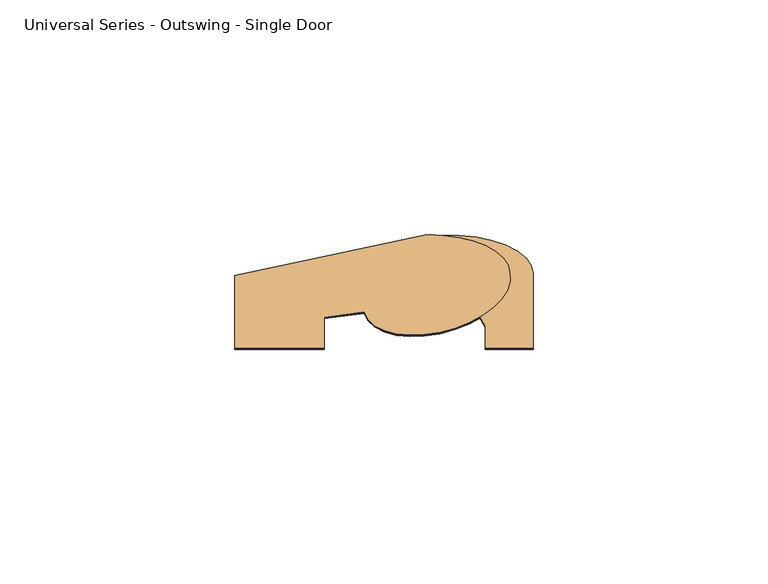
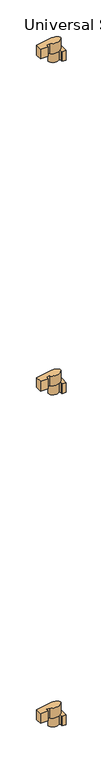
"""IFC4 building model written with IfcOpenShell, lengths in millimetres: door geometry, Universal Series - Outswing - Single Door : Universal Single Door - Rainware White."""

from ifc_helpers import new_model, si_unit, point, frame, origin, place, context, project, spatial, ellipse_curve, trimmed, source, transform, mapped, element, save
from ifc_brep_helpers import plane_surface, extruded_surface, advanced_brep


def universal_series_outswing_single_door_a2d1e6a4(model_context):
    return source(origin(), model_context, "Body", "AdvancedBrep", [
        advanced_brep(
        [(406.4, 73.81875, 1854.2), (406.4, 57.94375, 1854.2), (396.2410269, 57.94375, 1854.2), (396.2410269, 62.5751014, 1854.2), (393.9021491, 66.7596681, 1854.2), (371.3277787, 73.81875, 1854.2), (406.4, 73.81875, 1879.6), (371.3277787, 73.81875, 1879.6), (393.9021491, 66.7596681, 1879.6), (396.2410269, 62.5751014, 1879.6), (396.2410269, 57.94375, 1879.6), (406.4, 57.94375, 1879.6)],
        [
            (0, 1),
            (1, 2),
            (2, 3),
            (3, 4),
            (4, 5, ellipse_curve(frame((384.0277787, 73.81875, 1854.2), z_axis=(0.0, 0.0, -1.0), x_axis=(-1.0, 0.0, 0.0)), 12.7, 11.2250039)),
            (5, 0, ellipse_curve(frame((388.8638894, 73.81875, 1854.2), z_axis=(0.0, 0.0, -1.0), x_axis=(1.0, 0.0, 0.0)), 17.5361106, 8.0833806)),
            (6, 7, ellipse_curve(frame((388.8638894, 73.81875, 1879.6), z_axis=(0.0, 0.0, 1.0), x_axis=(1.0, 0.0, 0.0)), 17.5361106, 8.0833806)),
            (7, 8, ellipse_curve(frame((384.0277787, 73.81875, 1879.6), z_axis=(0.0, 0.0, 1.0), x_axis=(-1.0, 0.0, 0.0)), 12.7, 11.2250039)),
            (8, 9),
            (9, 10),
            (10, 11),
            (11, 6),
            (6, 0),
            (5, 7),
            (4, 8),
            (3, 9),
            (2, 10),
            (1, 11),
        ],
        [
            plane_surface(frame((406.4, 73.81875, 1854.2), z_axis=(0.0, 0.0, -1.0), x_axis=(0.0, -1.0, 0.0))),
            plane_surface(frame((406.4, 73.81875, 1879.6), z_axis=(0.0, 0.0, 1.0), x_axis=(0.0, 1.0, 0.0))),
            extruded_surface(trimmed(ellipse_curve(frame((388.8638894, 73.81875, 1828.8), z_axis=(0.0, 0.0, 1.0), x_axis=(1.0, 0.0, 0.0)), 17.5361106, 8.0833806), [point((406.4, 73.81875, 1828.8))], [point((371.3277787, 73.81875, 1828.8))], True, "CARTESIAN"), (0.0, 0.0, 25.40000000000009), 25.40000000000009),
            extruded_surface(trimmed(ellipse_curve(frame((384.0277787, 73.81875, 1828.8), z_axis=(0.0, 0.0, 1.0), x_axis=(-1.0, 0.0, 0.0)), 12.7, 11.2250039), [point((371.3277787, 73.81875, 1828.8))], [point((393.9021491, 66.7596681, 1828.8))], True, "CARTESIAN"), (0.0, 0.0, 25.40000000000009), 25.40000000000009),
            plane_surface(frame((393.9021491, 66.7596681, 1879.6), z_axis=(-0.8729040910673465, -0.48789184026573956, 0.0), x_axis=(0.0, 0.0, -1.0))),
            plane_surface(frame((396.2410269, 62.5751014, 1879.6), z_axis=(-1.0, 0.0, 0.0), x_axis=(0.0, 0.0, -1.0))),
            plane_surface(frame((396.2410269, 57.94375, 1879.6), z_axis=(0.0, -1.0, 0.0), x_axis=(0.0, 0.0, -1.0))),
            plane_surface(frame((406.4, 57.94375, 1879.6), z_axis=(1.0, 0.0, 0.0), x_axis=(0.0, 0.0, -1.0))),
        ],
        [
            (0, [[1, 2, 3, 4, 5, 6]]),
            (1, [[7, 8, 9, 10, 11, 12]]),
            (2, [[-7, 13, -6, 14]]),
            (3, [[-8, -14, -5, 15]]),
            (4, [[-9, -15, -4, 16]]),
            (5, [[-10, -16, -3, 17]]),
            (6, [[-11, -17, -2, 18]]),
            (7, [[-12, -18, -1, -13]]),
        ],
    ),
        advanced_brep(
        [(406.4, 73.81875, 990.6), (406.4, 57.94375, 990.6), (396.2410269, 57.94375, 990.6), (396.2410269, 62.5751014, 990.6), (393.9021491, 66.7596681, 990.6), (371.3277787, 73.81875, 990.6), (406.4, 73.81875, 1016.0), (371.3277787, 73.81875, 1016.0), (393.9021491, 66.7596681, 1016.0), (396.2410269, 62.5751014, 1016.0), (396.2410269, 57.94375, 1016.0), (406.4, 57.94375, 1016.0)],
        [
            (0, 1),
            (1, 2),
            (2, 3),
            (3, 4),
            (4, 5, ellipse_curve(frame((384.0277787, 73.81875, 990.6), z_axis=(0.0, 0.0, -1.0), x_axis=(-1.0, 0.0, 0.0)), 12.7, 11.2250039)),
            (5, 0, ellipse_curve(frame((388.8638894, 73.81875, 990.6), z_axis=(0.0, 0.0, -1.0), x_axis=(1.0, 0.0, 0.0)), 17.5361106, 8.0833806)),
            (6, 7, ellipse_curve(frame((388.8638894, 73.81875, 1016.0), z_axis=(0.0, 0.0, 1.0), x_axis=(1.0, 0.0, 0.0)), 17.5361106, 8.0833806)),
            (7, 8, ellipse_curve(frame((384.0277787, 73.81875, 1016.0), z_axis=(0.0, 0.0, 1.0), x_axis=(-1.0, 0.0, 0.0)), 12.7, 11.2250039)),
            (8, 9),
            (9, 10),
            (10, 11),
            (11, 6),
            (6, 0),
            (5, 7),
            (4, 8),
            (3, 9),
            (2, 10),
            (1, 11),
        ],
        [
            plane_surface(frame((406.4, 73.81875, 990.6), z_axis=(0.0, 0.0, -1.0), x_axis=(0.0, -1.0, 0.0))),
            plane_surface(frame((406.4, 73.81875, 1016.0), z_axis=(0.0, 0.0, 1.0), x_axis=(0.0, 1.0, 0.0))),
            extruded_surface(trimmed(ellipse_curve(frame((388.8638894, 73.81875, 965.2), z_axis=(0.0, 0.0, 1.0), x_axis=(1.0, 0.0, 0.0)), 17.5361106, 8.0833806), [point((406.4, 73.81875, 965.2))], [point((371.3277787, 73.81875, 965.2))], True, "CARTESIAN"), (0.0, 0.0, 25.399999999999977), 25.399999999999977),
            extruded_surface(trimmed(ellipse_curve(frame((384.0277787, 73.81875, 965.2), z_axis=(0.0, 0.0, 1.0), x_axis=(-1.0, 0.0, 0.0)), 12.7, 11.2250039), [point((371.3277787, 73.81875, 965.2))], [point((393.9021491, 66.7596681, 965.2))], True, "CARTESIAN"), (0.0, 0.0, 25.399999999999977), 25.399999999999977),
            plane_surface(frame((393.9021491, 66.7596681, 1016.0), z_axis=(-0.8729040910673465, -0.48789184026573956, 0.0), x_axis=(0.0, 0.0, -1.0))),
            plane_surface(frame((396.2410269, 62.5751014, 1016.0), z_axis=(-1.0, 0.0, 0.0), x_axis=(0.0, 0.0, -1.0))),
            plane_surface(frame((396.2410269, 57.94375, 1016.0), z_axis=(0.0, -1.0, 0.0), x_axis=(0.0, 0.0, -1.0))),
            plane_surface(frame((406.4, 57.94375, 1016.0), z_axis=(1.0, 0.0, 0.0), x_axis=(0.0, 0.0, -1.0))),
        ],
        [
            (0, [[1, 2, 3, 4, 5, 6]]),
            (1, [[7, 8, 9, 10, 11, 12]]),
            (2, [[-7, 13, -6, 14]]),
            (3, [[-8, -14, -5, 15]]),
            (4, [[-9, -15, -4, 16]]),
            (5, [[-10, -16, -3, 17]]),
            (6, [[-11, -17, -2, 18]]),
            (7, [[-12, -18, -1, -13]]),
        ],
    ),
        advanced_brep(
        [(401.4080824, 73.9727208, 1041.4), (383.8719717, 82.0561014, 1041.4), (342.9, 73.4034338, 1041.4), (342.9, 57.94375, 1041.4), (361.95, 57.94375, 1041.4), (361.95, 64.4477208, 1041.4), (370.4715318, 65.5953469, 1041.4), (401.4080824, 73.9727208, 1016.0), (370.4715318, 65.5953469, 1016.0), (361.95, 64.4477208, 1016.0), (361.95, 57.94375, 1016.0), (342.9, 57.94375, 1016.0), (342.9, 73.4034338, 1016.0), (383.8719717, 82.0561014, 1016.0)],
        [
            (0, 1, ellipse_curve(frame((383.8719717, 73.9727208, 1041.4), z_axis=(0.0, 0.0, 1.0), x_axis=(-1.0, 0.0, 0.0)), 17.5361106, 8.0833806)),
            (1, 2),
            (2, 3),
            (3, 4),
            (4, 5),
            (5, 6),
            (6, 0, ellipse_curve(frame((385.9398071, 69.7840339, 1041.4), z_axis=(0.0, 0.0, 1.0000000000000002), x_axis=(0.9652364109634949, 0.261378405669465, 0.0)), 16.0253748, 8.4436972)),
            (7, 8, ellipse_curve(frame((385.9398071, 69.7840339, 1016.0), z_axis=(0.0, 0.0, -1.0000000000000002), x_axis=(0.9652364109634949, 0.261378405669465, 0.0)), 16.0253748, 8.4436972)),
            (8, 9),
            (9, 10),
            (10, 11),
            (11, 12),
            (12, 13),
            (13, 7, ellipse_curve(frame((383.8719717, 73.9727208, 1016.0), z_axis=(0.0, 0.0, -1.0), x_axis=(-1.0, 0.0, 0.0)), 17.5361106, 8.0833806)),
            (0, 7),
            (13, 1),
            (12, 2),
            (11, 3),
            (10, 4),
            (9, 5),
            (8, 6),
        ],
        [
            plane_surface(frame((366.3358611, 73.9727208, 1041.4), z_axis=(0.0, 0.0, 1.0), x_axis=(0.0, -1.0, 0.0))),
            plane_surface(frame((366.3358611, 73.9727208, 1016.0), z_axis=(0.0, 0.0, -1.0), x_axis=(0.0, 1.0, 0.0))),
            extruded_surface(trimmed(ellipse_curve(frame((383.8719717, 73.9727208, 990.6), z_axis=(0.0, 0.0, 1.0), x_axis=(-1.0, 0.0, 0.0)), 17.5361106, 8.0833806), [point((401.4080824, 73.9727208, 990.6))], [point((383.8719717, 82.0561014, 990.6))], True, "CARTESIAN"), (0.0, 0.0, 25.399999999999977), 25.399999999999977),
            plane_surface(frame((383.8719717, 82.0561014, 1041.4), z_axis=(-0.20662759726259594, 0.9784196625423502, 0.0), x_axis=(0.0, 0.0, -1.0))),
            plane_surface(frame((342.9, 73.4034338, 1041.4), z_axis=(-1.0, 0.0, 0.0), x_axis=(0.0, 0.0, -1.0))),
            plane_surface(frame((342.9, 57.94375, 1041.4), z_axis=(0.0, -1.0, 0.0), x_axis=(0.0, 0.0, -1.0))),
            plane_surface(frame((361.95, 57.94375, 1041.4), z_axis=(1.0, 0.0, 0.0), x_axis=(0.0, 0.0, -1.0))),
            plane_surface(frame((361.95, 64.4477208, 1041.4), z_axis=(0.1334687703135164, -0.9910530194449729, 0.0), x_axis=(0.0, 0.0, -1.0))),
            extruded_surface(trimmed(ellipse_curve(frame((385.9398071, 69.7840339, 990.6), z_axis=(0.0, 0.0, 1.0000000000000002), x_axis=(0.9652364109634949, 0.261378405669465, 0.0)), 16.0253748, 8.4436972), [point((370.4715318, 65.5953469, 990.6))], [point((401.4080824, 73.9727208, 990.6))], True, "CARTESIAN"), (0.0, 0.0, 25.399999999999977), 25.399999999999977),
        ],
        [
            (0, [[1, 2, 3, 4, 5, 6, 7]]),
            (1, [[8, 9, 10, 11, 12, 13, 14]]),
            (2, [[-1, 15, -14, 16]]),
            (3, [[-2, -16, -13, 17]]),
            (4, [[-3, -17, -12, 18]]),
            (5, [[-4, -18, -11, 19]]),
            (6, [[-5, -19, -10, 20]]),
            (7, [[-6, -20, -9, 21]]),
            (8, [[-7, -21, -8, -15]]),
        ],
    ),
        advanced_brep(
        [(401.4080824, 73.9727208, 152.4), (370.4715318, 65.5953469, 152.4), (361.95, 64.4477208, 152.4), (361.95, 57.94375, 152.4), (342.9, 57.94375, 152.4), (342.9, 73.4034338, 152.4), (383.8719717, 82.0561014, 152.4), (401.4080824, 73.9727208, 177.8), (383.8719717, 82.0561014, 177.8), (342.9, 73.4034338, 177.8), (342.9, 57.94375, 177.8), (361.95, 57.94375, 177.8), (361.95, 64.4477208, 177.8), (370.4715318, 65.5953469, 177.8)],
        [
            (0, 1, ellipse_curve(frame((385.9398071, 69.7840339, 152.4), z_axis=(0.0, 0.0, -1.0), x_axis=(0.9652364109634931, 0.2613784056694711, 0.0)), 16.0253748, 8.4436972)),
            (1, 2),
            (2, 3),
            (3, 4),
            (4, 5),
            (5, 6),
            (6, 0, ellipse_curve(frame((383.8719717, 73.9727208, 152.4), z_axis=(0.0, 0.0, -1.0), x_axis=(-1.0, 0.0, 0.0)), 17.5361106, 8.0833806)),
            (7, 8, ellipse_curve(frame((383.8719717, 73.9727208, 177.8), z_axis=(0.0, 0.0, 1.0), x_axis=(-1.0, 0.0, 0.0)), 17.5361106, 8.0833806)),
            (8, 9),
            (9, 10),
            (10, 11),
            (11, 12),
            (12, 13),
            (13, 7, ellipse_curve(frame((385.9398071, 69.7840339, 177.8), z_axis=(0.0, 0.0, 1.0), x_axis=(0.9652364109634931, 0.2613784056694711, 0.0)), 16.0253748, 8.4436972)),
            (7, 0),
            (6, 8),
            (5, 9),
            (4, 10),
            (3, 11),
            (2, 12),
            (1, 13),
        ],
        [
            plane_surface(frame((366.3358611, 73.9727208, 152.4), z_axis=(0.0, 0.0, -1.0), x_axis=(0.0, 1.0, 0.0))),
            plane_surface(frame((366.3358611, 73.9727208, 177.8), z_axis=(0.0, 0.0, 1.0), x_axis=(0.0, -1.0, 0.0))),
            extruded_surface(trimmed(ellipse_curve(frame((383.8719717, 73.9727208, 127.0), z_axis=(0.0, 0.0, 1.0), x_axis=(-1.0, 0.0, 0.0)), 17.5361106, 8.0833806), [point((401.4080824, 73.9727208, 127.0))], [point((383.8719717, 82.0561014, 127.0))], True, "CARTESIAN"), (0.0, 0.0, 25.400000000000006), 25.400000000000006),
            plane_surface(frame((383.8719717, 82.0561014, 177.8), z_axis=(-0.20662759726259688, 0.97841966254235, 0.0), x_axis=(0.0, 0.0, -1.0))),
            plane_surface(frame((342.9, 73.4034338, 177.8), z_axis=(-1.0, 0.0, 0.0), x_axis=(0.0, 0.0, -1.0))),
            plane_surface(frame((342.9, 57.94375, 177.8), z_axis=(0.0, -1.0, 0.0), x_axis=(0.0, 0.0, -1.0))),
            plane_surface(frame((361.95, 57.94375, 177.8), z_axis=(1.0, 0.0, 0.0), x_axis=(0.0, 0.0, -1.0))),
            plane_surface(frame((361.95, 64.4477208, 177.8), z_axis=(0.1334687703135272, -0.9910530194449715, 0.0), x_axis=(0.0, 0.0, -1.0))),
            extruded_surface(trimmed(ellipse_curve(frame((385.9398071, 69.7840339, 127.0), z_axis=(0.0, 0.0, 1.0), x_axis=(0.9652364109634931, 0.2613784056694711, 0.0)), 16.0253748, 8.4436972), [point((370.4715318, 65.5953469, 127.0))], [point((401.4080824, 73.9727208, 127.0))], True, "CARTESIAN"), (0.0, 0.0, 25.400000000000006), 25.400000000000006),
        ],
        [
            (0, [[1, 2, 3, 4, 5, 6, 7]]),
            (1, [[8, 9, 10, 11, 12, 13, 14]]),
            (2, [[-8, 15, -7, 16]]),
            (3, [[-9, -16, -6, 17]]),
            (4, [[-10, -17, -5, 18]]),
            (5, [[-11, -18, -4, 19]]),
            (6, [[-12, -19, -3, 20]]),
            (7, [[-13, -20, -2, 21]]),
            (8, [[-14, -21, -1, -15]]),
        ],
    ),
        advanced_brep(
        [(401.4080824, 73.9727208, 1905.0), (383.8719717, 82.0561014, 1905.0), (342.9, 73.4034338, 1905.0), (342.9, 57.94375, 1905.0), (361.95, 57.94375, 1905.0), (361.95, 64.4477208, 1905.0), (370.4715318, 65.5953469, 1905.0), (401.4080824, 73.9727208, 1879.6), (370.4715318, 65.5953469, 1879.6), (361.95, 64.4477208, 1879.6), (361.95, 57.94375, 1879.6), (342.9, 57.94375, 1879.6), (342.9, 73.4034338, 1879.6), (383.8719717, 82.0561014, 1879.6)],
        [
            (0, 1, ellipse_curve(frame((383.8719717, 73.9727208, 1905.0), z_axis=(0.0, 0.0, 1.0), x_axis=(-1.0, 0.0, 0.0)), 17.5361106, 8.0833806)),
            (1, 2),
            (2, 3),
            (3, 4),
            (4, 5),
            (5, 6),
            (6, 0, ellipse_curve(frame((385.9398071, 69.7840339, 1905.0), z_axis=(0.0, 0.0, 1.0), x_axis=(0.9652364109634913, 0.26137840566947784, 0.0)), 16.0253748, 8.4436972)),
            (7, 8, ellipse_curve(frame((385.9398071, 69.7840339, 1879.6), z_axis=(0.0, 0.0, -1.0), x_axis=(0.9652364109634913, 0.26137840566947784, 0.0)), 16.0253748, 8.4436972)),
            (8, 9),
            (9, 10),
            (10, 11),
            (11, 12),
            (12, 13),
            (13, 7, ellipse_curve(frame((383.8719717, 73.9727208, 1879.6), z_axis=(0.0, 0.0, -1.0), x_axis=(-1.0, 0.0, 0.0)), 17.5361106, 8.0833806)),
            (0, 7),
            (13, 1),
            (12, 2),
            (11, 3),
            (10, 4),
            (9, 5),
            (8, 6),
        ],
        [
            plane_surface(frame((366.3358611, 73.9727208, 1905.0), z_axis=(0.0, 0.0, 1.0), x_axis=(0.0, -1.0, 0.0))),
            plane_surface(frame((366.3358611, 73.9727208, 1879.6), z_axis=(0.0, 0.0, -1.0), x_axis=(0.0, 1.0, 0.0))),
            extruded_surface(trimmed(ellipse_curve(frame((383.8719717, 73.9727208, 1854.2), z_axis=(0.0, 0.0, 1.0), x_axis=(-1.0, 0.0, 0.0)), 17.5361106, 8.0833806), [point((401.4080824, 73.9727208, 1854.2))], [point((383.8719717, 82.0561014, 1854.2))], True, "CARTESIAN"), (0.0, 0.0, 25.399999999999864), 25.399999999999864),
            plane_surface(frame((383.8719717, 82.0561014, 1905.0), z_axis=(-0.20662759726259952, 0.9784196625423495, 0.0), x_axis=(0.0, 0.0, -1.0))),
            plane_surface(frame((342.9, 73.4034338, 1905.0), z_axis=(-1.0, 0.0, 0.0), x_axis=(0.0, 0.0, -1.0))),
            plane_surface(frame((342.9, 57.94375, 1905.0), z_axis=(0.0, -1.0, 0.0), x_axis=(0.0, 0.0, -1.0))),
            plane_surface(frame((361.95, 57.94375, 1905.0), z_axis=(1.0, 0.0, 0.0), x_axis=(0.0, 0.0, -1.0))),
            plane_surface(frame((361.95, 64.4477208, 1905.0), z_axis=(0.13346877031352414, -0.9910530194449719, 0.0), x_axis=(0.0, 0.0, -1.0))),
            extruded_surface(trimmed(ellipse_curve(frame((385.9398071, 69.7840339, 1854.2), z_axis=(0.0, 0.0, 1.0), x_axis=(0.9652364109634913, 0.26137840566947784, 0.0)), 16.0253748, 8.4436972), [point((370.4715318, 65.5953469, 1854.2))], [point((401.4080824, 73.9727208, 1854.2))], True, "CARTESIAN"), (0.0, 0.0, 25.399999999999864), 25.399999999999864),
        ],
        [
            (0, [[1, 2, 3, 4, 5, 6, 7]]),
            (1, [[8, 9, 10, 11, 12, 13, 14]]),
            (2, [[-1, 15, -14, 16]]),
            (3, [[-2, -16, -13, 17]]),
            (4, [[-3, -17, -12, 18]]),
            (5, [[-4, -18, -11, 19]]),
            (6, [[-5, -19, -10, 20]]),
            (7, [[-6, -20, -9, 21]]),
            (8, [[-7, -21, -8, -15]]),
        ],
    ),
        advanced_brep(
        [(401.4080824, 73.9727208, 152.4), (370.4715318, 65.5953469, 152.4), (361.95, 64.4477208, 152.4), (361.95, 57.94375, 152.4), (342.9, 57.94375, 152.4), (342.9, 73.4034338, 152.4), (383.8719717, 82.0561014, 152.4), (401.4080824, 73.9727208, 177.8), (383.8719717, 82.0561014, 177.8), (342.9, 73.4034338, 177.8), (342.9, 57.94375, 177.8), (361.95, 57.94375, 177.8), (361.95, 64.4477208, 177.8), (370.4715318, 65.5953469, 177.8)],
        [
            (0, 1, ellipse_curve(frame((385.9398071, 69.7840339, 152.4), z_axis=(0.0, 0.0, -1.0), x_axis=(0.9652364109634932, 0.2613784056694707, 0.0)), 16.0253748, 8.4436972)),
            (1, 2),
            (2, 3),
            (3, 4),
            (4, 5),
            (5, 6),
            (6, 0, ellipse_curve(frame((383.8719717, 73.9727208, 152.4), z_axis=(0.0, 0.0, -1.0), x_axis=(-1.0, 0.0, 0.0)), 17.5361106, 8.0833806)),
            (7, 8, ellipse_curve(frame((383.8719717, 73.9727208, 177.8), z_axis=(0.0, 0.0, 1.0), x_axis=(-1.0, 0.0, 0.0)), 17.5361106, 8.0833806)),
            (8, 9),
            (9, 10),
            (10, 11),
            (11, 12),
            (12, 13),
            (13, 7, ellipse_curve(frame((385.9398071, 69.7840339, 177.8), z_axis=(0.0, 0.0, 1.0), x_axis=(0.9652364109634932, 0.2613784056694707, 0.0)), 16.0253748, 8.4436972)),
            (7, 0),
            (6, 8),
            (5, 9),
            (4, 10),
            (3, 11),
            (2, 12),
            (1, 13),
        ],
        [
            plane_surface(frame((366.3358611, 73.9727208, 152.4), z_axis=(0.0, 0.0, -1.0), x_axis=(0.0, 1.0, 0.0))),
            plane_surface(frame((366.3358611, 73.9727208, 177.8), z_axis=(0.0, 0.0, 1.0), x_axis=(0.0, -1.0, 0.0))),
            extruded_surface(trimmed(ellipse_curve(frame((383.8719717, 73.9727208, 127.0), z_axis=(0.0, 0.0, 1.0), x_axis=(-1.0, 0.0, 0.0)), 17.5361106, 8.0833806), [point((401.4080824, 73.9727208, 127.0))], [point((383.8719717, 82.0561014, 127.0))], True, "CARTESIAN"), (0.0, 0.0, 25.400000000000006), 25.400000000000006),
            plane_surface(frame((383.8719717, 82.0561014, 177.8), z_axis=(-0.20662759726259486, 0.9784196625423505, 0.0), x_axis=(0.0, 0.0, -1.0))),
            plane_surface(frame((342.9, 73.4034338, 177.8), z_axis=(-1.0, 0.0, 0.0), x_axis=(0.0, 0.0, -1.0))),
            plane_surface(frame((342.9, 57.94375, 177.8), z_axis=(0.0, -1.0, 0.0), x_axis=(0.0, 0.0, -1.0))),
            plane_surface(frame((361.95, 57.94375, 177.8), z_axis=(1.0, 0.0, 0.0), x_axis=(0.0, 0.0, -1.0))),
            plane_surface(frame((361.95, 64.4477208, 177.8), z_axis=(0.1334687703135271, -0.9910530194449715, 0.0), x_axis=(0.0, 0.0, -1.0))),
            extruded_surface(trimmed(ellipse_curve(frame((385.9398071, 69.7840339, 127.0), z_axis=(0.0, 0.0, 1.0), x_axis=(0.9652364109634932, 0.2613784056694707, 0.0)), 16.0253748, 8.4436972), [point((370.4715318, 65.5953469, 127.0))], [point((401.4080824, 73.9727208, 127.0))], True, "CARTESIAN"), (0.0, 0.0, 25.400000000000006), 25.400000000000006),
        ],
        [
            (0, [[1, 2, 3, 4, 5, 6, 7]]),
            (1, [[8, 9, 10, 11, 12, 13, 14]]),
            (2, [[-8, 15, -7, 16]]),
            (3, [[-9, -16, -6, 17]]),
            (4, [[-10, -17, -5, 18]]),
            (5, [[-11, -18, -4, 19]]),
            (6, [[-12, -19, -3, 20]]),
            (7, [[-13, -20, -2, 21]]),
            (8, [[-14, -21, -1, -15]]),
        ],
    ),
        advanced_brep(
        [(401.4080824, 73.9727208, 152.4), (370.4715318, 65.5953469, 152.4), (361.95, 64.4477208, 152.4), (361.95, 57.94375, 152.4), (342.9, 57.94375, 152.4), (342.9, 73.4034338, 152.4), (383.8719717, 82.0561014, 152.4), (401.4080824, 73.9727208, 177.8), (383.8719717, 82.0561014, 177.8), (342.9, 73.4034338, 177.8), (342.9, 57.94375, 177.8), (361.95, 57.94375, 177.8), (361.95, 64.4477208, 177.8), (370.4715318, 65.5953469, 177.8)],
        [
            (0, 1, ellipse_curve(frame((385.9398071, 69.7840339, 152.4), z_axis=(0.0, 0.0, -1.0), x_axis=(0.9652364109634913, 0.26137840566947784, 0.0)), 16.0253748, 8.4436972)),
            (1, 2),
            (2, 3),
            (3, 4),
            (4, 5),
            (5, 6),
            (6, 0, ellipse_curve(frame((383.8719717, 73.9727208, 152.4), z_axis=(0.0, 0.0, -1.0), x_axis=(-1.0, 0.0, 0.0)), 17.5361106, 8.0833806)),
            (7, 8, ellipse_curve(frame((383.8719717, 73.9727208, 177.8), z_axis=(0.0, 0.0, 1.0), x_axis=(-1.0, 0.0, 0.0)), 17.5361106, 8.0833806)),
            (8, 9),
            (9, 10),
            (10, 11),
            (11, 12),
            (12, 13),
            (13, 7, ellipse_curve(frame((385.9398071, 69.7840339, 177.8), z_axis=(0.0, 0.0, 1.0), x_axis=(0.9652364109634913, 0.26137840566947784, 0.0)), 16.0253748, 8.4436972)),
            (7, 0),
            (6, 8),
            (5, 9),
            (4, 10),
            (3, 11),
            (2, 12),
            (1, 13),
        ],
        [
            plane_surface(frame((366.3358611, 73.9727208, 152.4), z_axis=(0.0, 0.0, -1.0), x_axis=(0.0, 1.0, 0.0))),
            plane_surface(frame((366.3358611, 73.9727208, 177.8), z_axis=(0.0, 0.0, 1.0), x_axis=(0.0, -1.0, 0.0))),
            extruded_surface(trimmed(ellipse_curve(frame((383.8719717, 73.9727208, 127.0), z_axis=(0.0, 0.0, 1.0), x_axis=(-1.0, 0.0, 0.0)), 17.5361106, 8.0833806), [point((401.4080824, 73.9727208, 127.0))], [point((383.8719717, 82.0561014, 127.0))], True, "CARTESIAN"), (0.0, 0.0, 25.400000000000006), 25.400000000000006),
            plane_surface(frame((383.8719717, 82.0561014, 177.8), z_axis=(-0.20662759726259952, 0.9784196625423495, 0.0), x_axis=(0.0, 0.0, -1.0))),
            plane_surface(frame((342.9, 73.4034338, 177.8), z_axis=(-1.0, 0.0, 0.0), x_axis=(0.0, 0.0, -1.0))),
            plane_surface(frame((342.9, 57.94375, 177.8), z_axis=(0.0, -1.0, 0.0), x_axis=(0.0, 0.0, -1.0))),
            plane_surface(frame((361.95, 57.94375, 177.8), z_axis=(1.0, 0.0, 0.0), x_axis=(0.0, 0.0, -1.0))),
            plane_surface(frame((361.95, 64.4477208, 177.8), z_axis=(0.13346877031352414, -0.9910530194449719, 0.0), x_axis=(0.0, 0.0, -1.0))),
            extruded_surface(trimmed(ellipse_curve(frame((385.9398071, 69.7840339, 127.0), z_axis=(0.0, 0.0, 1.0), x_axis=(0.9652364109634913, 0.26137840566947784, 0.0)), 16.0253748, 8.4436972), [point((370.4715318, 65.5953469, 127.0))], [point((401.4080824, 73.9727208, 127.0))], True, "CARTESIAN"), (0.0, 0.0, 25.400000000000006), 25.400000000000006),
        ],
        [
            (0, [[1, 2, 3, 4, 5, 6, 7]]),
            (1, [[8, 9, 10, 11, 12, 13, 14]]),
            (2, [[-8, 15, -7, 16]]),
            (3, [[-9, -16, -6, 17]]),
            (4, [[-10, -17, -5, 18]]),
            (5, [[-11, -18, -4, 19]]),
            (6, [[-12, -19, -3, 20]]),
            (7, [[-13, -20, -2, 21]]),
            (8, [[-14, -21, -1, -15]]),
        ],
    ),
        advanced_brep(
        [(401.4080824, 73.9727208, 152.4), (370.4715318, 65.5953469, 152.4), (361.95, 64.4477208, 152.4), (361.95, 57.94375, 152.4), (342.9, 57.94375, 152.4), (342.9, 73.4034338, 152.4), (383.8719717, 82.0561014, 152.4), (401.4080824, 73.9727208, 177.8), (383.8719717, 82.0561014, 177.8), (342.9, 73.4034338, 177.8), (342.9, 57.94375, 177.8), (361.95, 57.94375, 177.8), (361.95, 64.4477208, 177.8), (370.4715318, 65.5953469, 177.8)],
        [
            (0, 1, ellipse_curve(frame((385.9398071, 69.7840339, 152.4), z_axis=(0.0, 0.0, -1.0), x_axis=(0.9652364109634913, 0.26137840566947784, 0.0)), 16.0253748, 8.4436972)),
            (1, 2),
            (2, 3),
            (3, 4),
            (4, 5),
            (5, 6),
            (6, 0, ellipse_curve(frame((383.8719717, 73.9727208, 152.4), z_axis=(0.0, 0.0, -1.0), x_axis=(-1.0, 0.0, 0.0)), 17.5361106, 8.0833806)),
            (7, 8, ellipse_curve(frame((383.8719717, 73.9727208, 177.8), z_axis=(0.0, 0.0, 1.0), x_axis=(-1.0, 0.0, 0.0)), 17.5361106, 8.0833806)),
            (8, 9),
            (9, 10),
            (10, 11),
            (11, 12),
            (12, 13),
            (13, 7, ellipse_curve(frame((385.9398071, 69.7840339, 177.8), z_axis=(0.0, 0.0, 1.0), x_axis=(0.9652364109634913, 0.26137840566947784, 0.0)), 16.0253748, 8.4436972)),
            (7, 0),
            (6, 8),
            (5, 9),
            (4, 10),
            (3, 11),
            (2, 12),
            (1, 13),
        ],
        [
            plane_surface(frame((366.3358611, 73.9727208, 152.4), z_axis=(0.0, 0.0, -1.0), x_axis=(0.0, 1.0, 0.0))),
            plane_surface(frame((366.3358611, 73.9727208, 177.8), z_axis=(0.0, 0.0, 1.0), x_axis=(0.0, -1.0, 0.0))),
            extruded_surface(trimmed(ellipse_curve(frame((383.8719717, 73.9727208, 127.0), z_axis=(0.0, 0.0, 1.0), x_axis=(-1.0, 0.0, 0.0)), 17.5361106, 8.0833806), [point((401.4080824, 73.9727208, 127.0))], [point((383.8719717, 82.0561014, 127.0))], True, "CARTESIAN"), (0.0, 0.0, 25.400000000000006), 25.400000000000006),
            plane_surface(frame((383.8719717, 82.0561014, 177.8), z_axis=(-0.20662759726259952, 0.9784196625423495, 0.0), x_axis=(0.0, 0.0, -1.0))),
            plane_surface(frame((342.9, 73.4034338, 177.8), z_axis=(-1.0, 0.0, 0.0), x_axis=(0.0, 0.0, -1.0))),
            plane_surface(frame((342.9, 57.94375, 177.8), z_axis=(0.0, -1.0, 0.0), x_axis=(0.0, 0.0, -1.0))),
            plane_surface(frame((361.95, 57.94375, 177.8), z_axis=(1.0, 0.0, 0.0), x_axis=(0.0, 0.0, -1.0))),
            plane_surface(frame((361.95, 64.4477208, 177.8), z_axis=(0.13346877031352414, -0.9910530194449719, 0.0), x_axis=(0.0, 0.0, -1.0))),
            extruded_surface(trimmed(ellipse_curve(frame((385.9398071, 69.7840339, 127.0), z_axis=(0.0, 0.0, 1.0), x_axis=(0.9652364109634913, 0.26137840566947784, 0.0)), 16.0253748, 8.4436972), [point((370.4715318, 65.5953469, 127.0))], [point((401.4080824, 73.9727208, 127.0))], True, "CARTESIAN"), (0.0, 0.0, 25.400000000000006), 25.400000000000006),
        ],
        [
            (0, [[1, 2, 3, 4, 5, 6, 7]]),
            (1, [[8, 9, 10, 11, 12, 13, 14]]),
            (2, [[-8, 15, -7, 16]]),
            (3, [[-9, -16, -6, 17]]),
            (4, [[-10, -17, -5, 18]]),
            (5, [[-11, -18, -4, 19]]),
            (6, [[-12, -19, -3, 20]]),
            (7, [[-13, -20, -2, 21]]),
            (8, [[-14, -21, -1, -15]]),
        ],
    ),
        advanced_brep(
        [(401.4080824, 73.9727208, 152.4), (370.4715318, 65.5953469, 152.4), (361.95, 64.4477208, 152.4), (361.95, 57.94375, 152.4), (342.9, 57.94375, 152.4), (342.9, 73.4034338, 152.4), (383.8719717, 82.0561014, 152.4), (401.4080824, 73.9727208, 177.8), (383.8719717, 82.0561014, 177.8), (342.9, 73.4034338, 177.8), (342.9, 57.94375, 177.8), (361.95, 57.94375, 177.8), (361.95, 64.4477208, 177.8), (370.4715318, 65.5953469, 177.8)],
        [
            (0, 1, ellipse_curve(frame((385.9398071, 69.7840339, 152.4), z_axis=(0.0, 0.0, -1.0000000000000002), x_axis=(0.9652364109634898, 0.26137840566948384, 0.0)), 16.0253748, 8.4436972)),
            (1, 2),
            (2, 3),
            (3, 4),
            (4, 5),
            (5, 6),
            (6, 0, ellipse_curve(frame((383.8719717, 73.9727208, 152.4), z_axis=(0.0, 0.0, -1.0), x_axis=(-1.0, 0.0, 0.0)), 17.5361106, 8.0833806)),
            (7, 8, ellipse_curve(frame((383.8719717, 73.9727208, 177.8), z_axis=(0.0, 0.0, 1.0), x_axis=(-1.0, 0.0, 0.0)), 17.5361106, 8.0833806)),
            (8, 9),
            (9, 10),
            (10, 11),
            (11, 12),
            (12, 13),
            (13, 7, ellipse_curve(frame((385.9398071, 69.7840339, 177.8), z_axis=(0.0, 0.0, 1.0000000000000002), x_axis=(0.9652364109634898, 0.26137840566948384, 0.0)), 16.0253748, 8.4436972)),
            (7, 0),
            (6, 8),
            (5, 9),
            (4, 10),
            (3, 11),
            (2, 12),
            (1, 13),
        ],
        [
            plane_surface(frame((366.3358611, 73.9727208, 152.4), z_axis=(0.0, 0.0, -1.0), x_axis=(0.0, 1.0, 0.0))),
            plane_surface(frame((366.3358611, 73.9727208, 177.8), z_axis=(0.0, 0.0, 1.0), x_axis=(0.0, -1.0, 0.0))),
            extruded_surface(trimmed(ellipse_curve(frame((383.8719717, 73.9727208, 127.0), z_axis=(0.0, 0.0, 1.0), x_axis=(-1.0, 0.0, 0.0)), 17.5361106, 8.0833806), [point((401.4080824, 73.9727208, 127.0))], [point((383.8719717, 82.0561014, 127.0))], True, "CARTESIAN"), (0.0, 0.0, 25.400000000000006), 25.400000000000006),
            plane_surface(frame((383.8719717, 82.0561014, 177.8), z_axis=(-0.20662759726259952, 0.9784196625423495, 0.0), x_axis=(0.0, 0.0, -1.0))),
            plane_surface(frame((342.9, 73.4034338, 177.8), z_axis=(-1.0, 0.0, 0.0), x_axis=(0.0, 0.0, -1.0))),
            plane_surface(frame((342.9, 57.94375, 177.8), z_axis=(0.0, -1.0, 0.0), x_axis=(0.0, 0.0, -1.0))),
            plane_surface(frame((361.95, 57.94375, 177.8), z_axis=(1.0, 0.0, 0.0), x_axis=(0.0, 0.0, -1.0))),
            plane_surface(frame((361.95, 64.4477208, 177.8), z_axis=(0.1334687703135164, -0.9910530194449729, 0.0), x_axis=(0.0, 0.0, -1.0))),
            extruded_surface(trimmed(ellipse_curve(frame((385.9398071, 69.7840339, 127.0), z_axis=(0.0, 0.0, 1.0000000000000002), x_axis=(0.9652364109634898, 0.26137840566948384, 0.0)), 16.0253748, 8.4436972), [point((370.4715318, 65.5953469, 127.0))], [point((401.4080824, 73.9727208, 127.0))], True, "CARTESIAN"), (0.0, 0.0, 25.400000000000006), 25.400000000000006),
        ],
        [
            (0, [[1, 2, 3, 4, 5, 6, 7]]),
            (1, [[8, 9, 10, 11, 12, 13, 14]]),
            (2, [[-8, 15, -7, 16]]),
            (3, [[-9, -16, -6, 17]]),
            (4, [[-10, -17, -5, 18]]),
            (5, [[-11, -18, -4, 19]]),
            (6, [[-12, -19, -3, 20]]),
            (7, [[-13, -20, -2, 21]]),
            (8, [[-14, -21, -1, -15]]),
        ],
    ),
        advanced_brep(
        [(406.4, 73.81875, 127.0), (406.4, 57.94375, 127.0), (396.2410269, 57.94375, 127.0), (396.2410269, 62.5751014, 127.0), (393.9021491, 66.7596681, 127.0), (371.3277787, 73.81875, 127.0), (406.4, 73.81875, 152.4), (371.3277787, 73.81875, 152.4), (393.9021491, 66.7596681, 152.4), (396.2410269, 62.5751014, 152.4), (396.2410269, 57.94375, 152.4), (406.4, 57.94375, 152.4)],
        [
            (0, 1),
            (1, 2),
            (2, 3),
            (3, 4),
            (4, 5, ellipse_curve(frame((384.0277787, 73.81875, 127.0), z_axis=(0.0, 0.0, -1.0), x_axis=(-1.0, 0.0, 0.0)), 12.7, 11.2250039)),
            (5, 0, ellipse_curve(frame((388.8638894, 73.81875, 127.0), z_axis=(0.0, 0.0, -1.0), x_axis=(1.0, 0.0, 0.0)), 17.5361106, 8.0833806)),
            (6, 7, ellipse_curve(frame((388.8638894, 73.81875, 152.4), z_axis=(0.0, 0.0, 1.0), x_axis=(1.0, 0.0, 0.0)), 17.5361106, 8.0833806)),
            (7, 8, ellipse_curve(frame((384.0277787, 73.81875, 152.4), z_axis=(0.0, 0.0, 1.0), x_axis=(-1.0, 0.0, 0.0)), 12.7, 11.2250039)),
            (8, 9),
            (9, 10),
            (10, 11),
            (11, 6),
            (6, 0),
            (5, 7),
            (4, 8),
            (3, 9),
            (2, 10),
            (1, 11),
        ],
        [
            plane_surface(frame((406.4, 73.81875, 127.0), z_axis=(0.0, 0.0, -1.0), x_axis=(0.0, -1.0, 0.0))),
            plane_surface(frame((406.4, 73.81875, 152.4), z_axis=(0.0, 0.0, 1.0), x_axis=(0.0, 1.0, 0.0))),
            extruded_surface(trimmed(ellipse_curve(frame((388.8638894, 73.81875, 101.6), z_axis=(0.0, 0.0, 1.0), x_axis=(1.0, 0.0, 0.0)), 17.5361106, 8.0833806), [point((406.4, 73.81875, 101.6))], [point((371.3277787, 73.81875, 101.6))], True, "CARTESIAN"), (0.0, 0.0, 25.400000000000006), 25.400000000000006),
            extruded_surface(trimmed(ellipse_curve(frame((384.0277787, 73.81875, 101.6), z_axis=(0.0, 0.0, 1.0), x_axis=(-1.0, 0.0, 0.0)), 12.7, 11.2250039), [point((371.3277787, 73.81875, 101.6))], [point((393.9021491, 66.7596681, 101.6))], True, "CARTESIAN"), (0.0, 0.0, 25.400000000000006), 25.400000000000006),
            plane_surface(frame((393.9021491, 66.7596681, 152.4), z_axis=(-0.8729040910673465, -0.48789184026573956, 0.0), x_axis=(0.0, 0.0, -1.0))),
            plane_surface(frame((396.2410269, 62.5751014, 152.4), z_axis=(-1.0, 0.0, 0.0), x_axis=(0.0, 0.0, -1.0))),
            plane_surface(frame((396.2410269, 57.94375, 152.4), z_axis=(0.0, -1.0, 0.0), x_axis=(0.0, 0.0, -1.0))),
            plane_surface(frame((406.4, 57.94375, 152.4), z_axis=(1.0, 0.0, 0.0), x_axis=(0.0, 0.0, -1.0))),
        ],
        [
            (0, [[1, 2, 3, 4, 5, 6]]),
            (1, [[7, 8, 9, 10, 11, 12]]),
            (2, [[-7, 13, -6, 14]]),
            (3, [[-8, -14, -5, 15]]),
            (4, [[-9, -15, -4, 16]]),
            (5, [[-10, -16, -3, 17]]),
            (6, [[-11, -17, -2, 18]]),
            (7, [[-12, -18, -1, -13]]),
        ],
    ),
    ])


if __name__ == "__main__":
    model = new_model("IFC4")
    model_context = context("Model", 3, world=origin())
    ifc_project = project(units=[si_unit("LENGTHUNIT", "METRE", prefix="MILLI")], contexts=[model_context])
    site = spatial("IfcSite", under=ifc_project)
    building = spatial("IfcBuilding", under=site)
    placement = place(None, origin())
    universal_series_outswing_single_door_shape = universal_series_outswing_single_door_a2d1e6a4(model_context)
    element("IfcDoor", 1, ObjectType="Universal Series - Outswing - Single Door : Universal Single Door - Rainware White", at=placement, inside=building, context=model_context, shape_type="MappedRepresentation", body=[
        mapped(universal_series_outswing_single_door_shape, transform((0.0, 0.0, 0.0), x_axis=(1.0, 0.0, 0.0), y_axis=(0.0, 1.0, 0.0), z_axis=(0.0, 0.0, 1.0))),
    ])
    save(model, "model.ifc")
